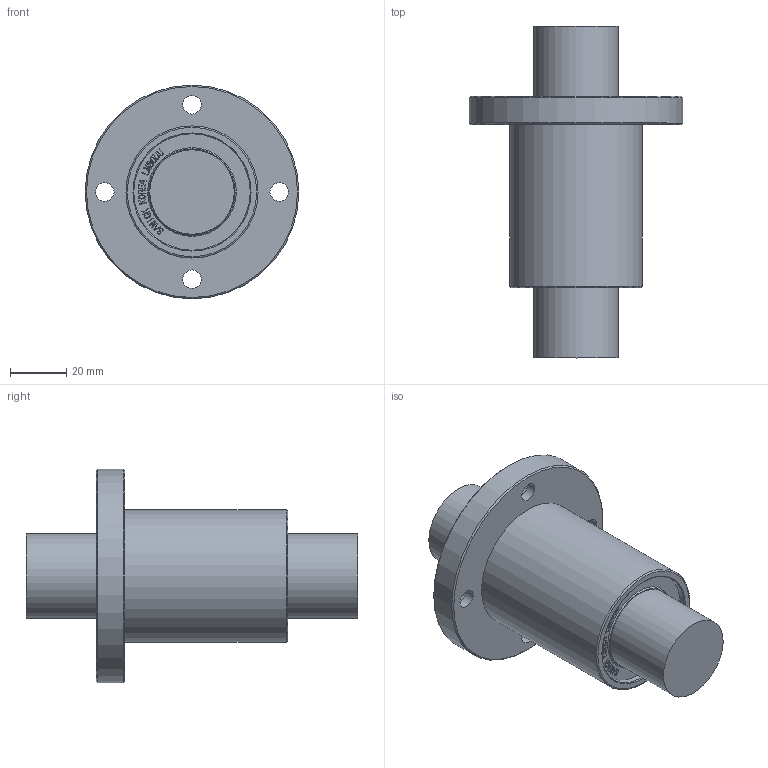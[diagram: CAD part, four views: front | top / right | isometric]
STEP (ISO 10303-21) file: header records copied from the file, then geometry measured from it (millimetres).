
FILE_DESCRIPTION(/* description */ (''),/* implementation_level */ '2;1');
FILE_NAME(/* name */ 'W:\(01) 2024년 홈페이지 CAD파일 최신화\LMEF\IPT\LMEF30UU.stp',/* time_stamp */ '2025-01-25T10:28:06+09:00',/* author */ ('서우현'),/* organization */ (''),/* preprocessor_version */ 'ST-DEVELOPER v17.2',/* originating_system */ 'Autodesk Inventor 2019',/* authorisation */ '');
FILE_SCHEMA (('AUTOMOTIVE_DESIGN { 1 0 10303 214 3 1 1 }'));
Length unit declared in the file: millimetre
Products named in the file (1): LM5
Bounding box: 76 x 118 x 76 mm (x, y, z)
Volume: 175413.7 mm3; surface area: 26574 mm2
Topology: 1 solids, 1 shells, 861 faces, 2435 edges, 1632 vertices
Faces by surface type: bspline 616, plane 222, cylinder 15, cone 6, torus 2
Full cylindrical faces by diameter (mm): 6.6 x4, 11 x4, 30 x2, 41.4 x2, 47 x2, 76 x1
Entity records: 29820 total; most frequent: CARTESIAN_POINT 11197, ORIENTED_EDGE 4870, EDGE_CURVE 2435, DIRECTION 1769, VERTEX_POINT 1632, B_SPLINE_CURVE_WITH_KNOTS 1232, LINE 1129, VECTOR 1129
